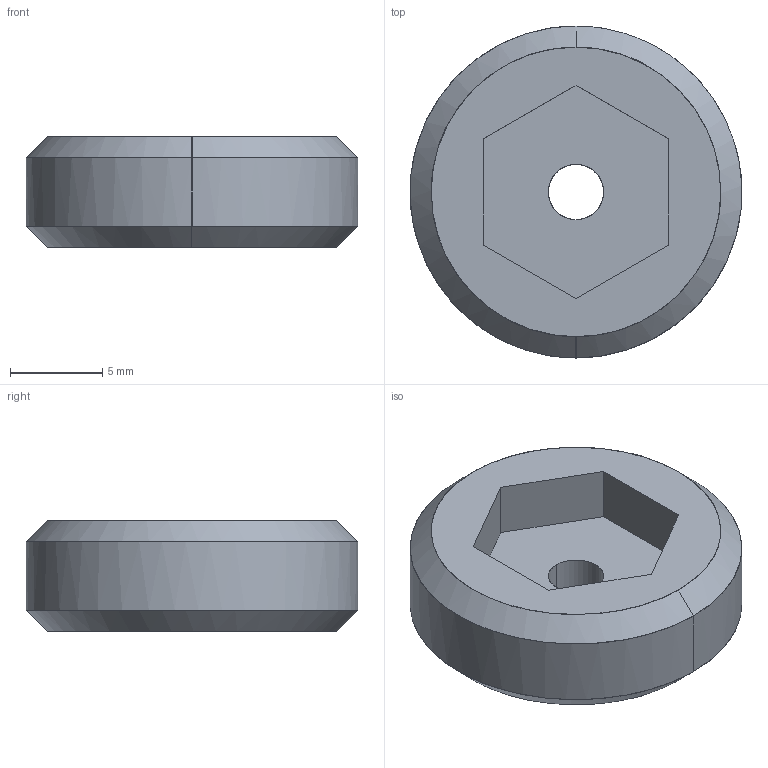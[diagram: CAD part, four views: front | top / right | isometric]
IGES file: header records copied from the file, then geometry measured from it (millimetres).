
Global section: file name: E:\UnigraphicsGraphicData\MISUMI_PRESS-PARTS\IGES\3d_mswsh18-6_00471_r00.igs; native system: NX V5.0; preprocessor: UGS NX IGES V5.0; author: MISUMI; date: 20110105.161526; units: millimetre
Bounding box: 17.99 x 18 x 6 mm (x, y, z)
Surface area: 887.9 mm2 (no closed solid volume)
Topology: 0 solids, 0 shells, 17 faces, 100 edges, 100 vertices
Faces by surface type: bspline 17
